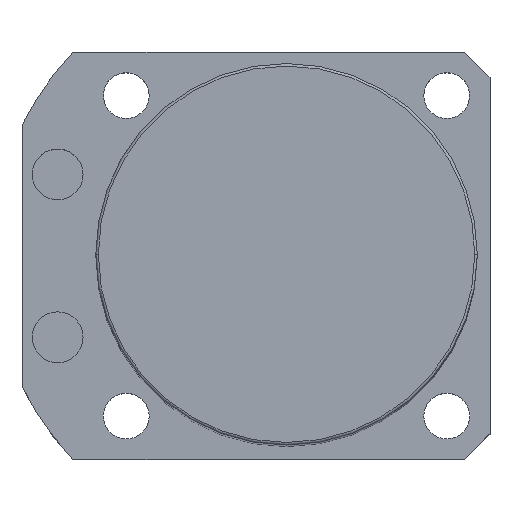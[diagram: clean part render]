
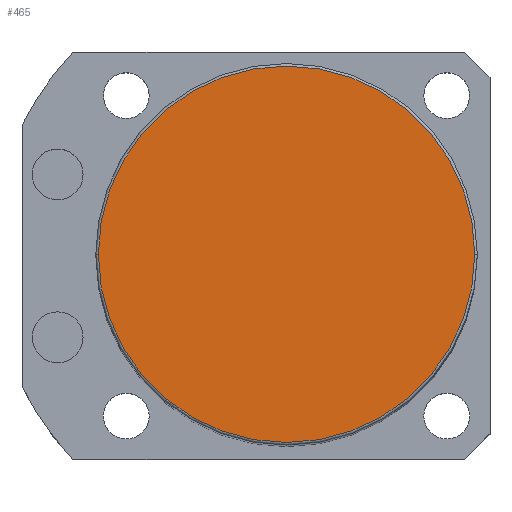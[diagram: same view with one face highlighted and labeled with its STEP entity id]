
A CAD part, top view. The second image highlights one B-rep face of the part: STEP entity #465.
In plain terms, the highlighted planar face has unit normal (0, 0, 1).
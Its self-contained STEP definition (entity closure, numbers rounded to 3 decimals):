
#202 = ORIENTED_EDGE ( 'NONE', *, *, #873, .T. ) ;
#228 = DIRECTION ( 'NONE',  ( 0., 0., 1. ) ) ;
#241 = EDGE_CURVE ( 'NONE', #1974, #1701, #760, .T. ) ;
#366 = AXIS2_PLACEMENT_3D ( 'NONE', #1859, #1110, #372 ) ;
#372 = DIRECTION ( 'NONE',  ( 1., 0., 0. ) ) ;
#465 = ADVANCED_FACE ( 'NONE', ( #727 ), #573, .T. ) ;
#496 = CIRCLE ( 'NONE', #366, 37. ) ;
#573 = PLANE ( 'NONE',  #1197 ) ;
#727 = FACE_OUTER_BOUND ( 'NONE', #1005, .T. ) ;
#760 = CIRCLE ( 'NONE', #1985, 37. ) ;
#873 = EDGE_CURVE ( 'NONE', #1701, #1974, #496, .T. ) ;
#992 = CARTESIAN_POINT ( 'NONE',  ( -37., 0., 195.5 ) ) ;
#1005 = EDGE_LOOP ( 'NONE', ( #202, #1934 ) ) ;
#1110 = DIRECTION ( 'NONE',  ( 0., 0., 1. ) ) ;
#1197 = AXIS2_PLACEMENT_3D ( 'NONE', #1567, #228, #1942 ) ;
#1442 = DIRECTION ( 'NONE',  ( 0., 0., 1. ) ) ;
#1450 = DIRECTION ( 'NONE',  ( 1., 0., 0. ) ) ;
#1567 = CARTESIAN_POINT ( 'NONE',  ( 0., 0., 195.5 ) ) ;
#1701 = VERTEX_POINT ( 'NONE', #1931 ) ;
#1859 = CARTESIAN_POINT ( 'NONE',  ( 0., 0., 195.5 ) ) ;
#1931 = CARTESIAN_POINT ( 'NONE',  ( 37., 0., 195.5 ) ) ;
#1934 = ORIENTED_EDGE ( 'NONE', *, *, #241, .T. ) ;
#1942 = DIRECTION ( 'NONE',  ( 1., 0., 0. ) ) ;
#1974 = VERTEX_POINT ( 'NONE', #992 ) ;
#1985 = AXIS2_PLACEMENT_3D ( 'NONE', #2403, #1442, #1450 ) ;
#2403 = CARTESIAN_POINT ( 'NONE',  ( 0., 0., 195.5 ) ) ;
